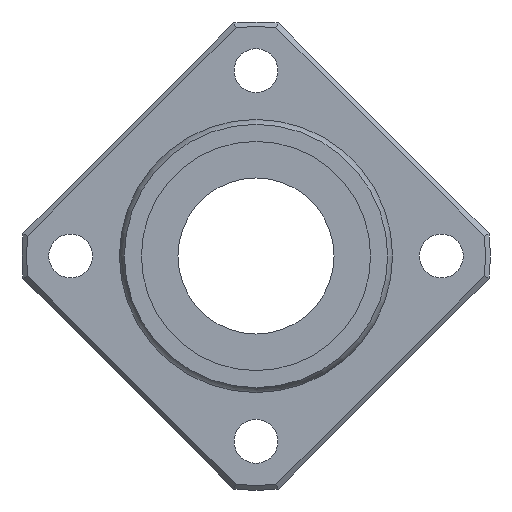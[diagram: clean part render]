
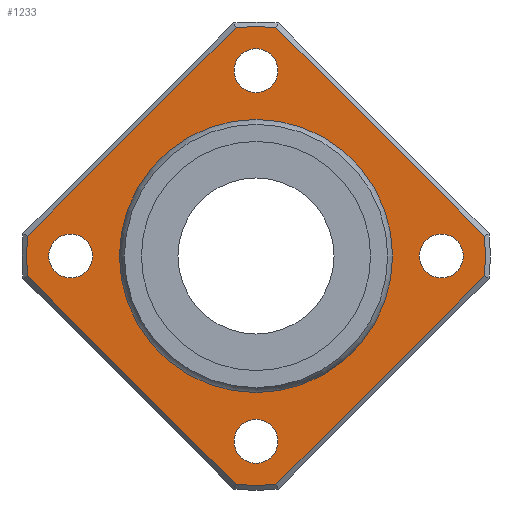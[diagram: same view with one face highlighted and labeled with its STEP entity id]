
A CAD part, left-side view. The second image highlights one B-rep face of the part: STEP entity #1233.
In plain terms, the highlighted planar face has unit normal (-1, 0, 0).
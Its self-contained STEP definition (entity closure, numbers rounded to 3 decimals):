
#809=CARTESIAN_POINT('',(-26.,23.411,2.045));
#810=VERTEX_POINT('',#809);
#818=CARTESIAN_POINT('',(-26.,2.045,23.411));
#819=VERTEX_POINT('',#818);
#820=CARTESIAN_POINT('',(-26.,23.411,2.045));
#821=DIRECTION('',(0.0,-0.707,0.707));
#822=VECTOR('',#821,30.216);
#823=LINE('',#820,#822);
#824=EDGE_CURVE('',#810,#819,#823,.T.);
#851=CARTESIAN_POINT('',(-26.,-2.045,23.411));
#852=VERTEX_POINT('',#851);
#853=CARTESIAN_POINT('',(-26.,0.0,0.0));
#854=DIRECTION('',(1.0,0.0,0.0));
#855=DIRECTION('',(0.0,0.0,1.0));
#856=AXIS2_PLACEMENT_3D('',#853,#854,#855);
#857=CIRCLE('',#856,23.5);
#858=EDGE_CURVE('',#819,#852,#857,.T.);
#884=CARTESIAN_POINT('',(-26.,-23.411,2.045));
#885=VERTEX_POINT('',#884);
#886=CARTESIAN_POINT('',(-26.,-2.045,23.411));
#887=DIRECTION('',(0.0,-0.707,-0.707));
#888=VECTOR('',#887,30.216);
#889=LINE('',#886,#888);
#890=EDGE_CURVE('',#852,#885,#889,.T.);
#917=CARTESIAN_POINT('',(-26.,-23.411,-2.045));
#918=VERTEX_POINT('',#917);
#919=CARTESIAN_POINT('',(-26.,0.0,0.0));
#920=DIRECTION('',(1.0,0.0,0.0));
#921=DIRECTION('',(0.0,0.0,1.0));
#922=AXIS2_PLACEMENT_3D('',#919,#920,#921);
#923=CIRCLE('',#922,23.5);
#924=EDGE_CURVE('',#885,#918,#923,.T.);
#950=CARTESIAN_POINT('',(-26.,-2.045,-23.411));
#951=VERTEX_POINT('',#950);
#952=CARTESIAN_POINT('',(-26.,-23.411,-2.045));
#953=DIRECTION('',(0.0,0.707,-0.707));
#954=VECTOR('',#953,30.216);
#955=LINE('',#952,#954);
#956=EDGE_CURVE('',#918,#951,#955,.T.);
#983=CARTESIAN_POINT('',(-26.,2.045,-23.411));
#984=VERTEX_POINT('',#983);
#985=CARTESIAN_POINT('',(-26.,0.0,0.0));
#986=DIRECTION('',(1.0,0.0,0.0));
#987=DIRECTION('',(0.0,0.0,-1.0));
#988=AXIS2_PLACEMENT_3D('',#985,#986,#987);
#989=CIRCLE('',#988,23.5);
#990=EDGE_CURVE('',#951,#984,#989,.T.);
#1016=CARTESIAN_POINT('',(-26.,23.411,-2.045));
#1017=VERTEX_POINT('',#1016);
#1018=CARTESIAN_POINT('',(-26.,2.045,-23.411));
#1019=DIRECTION('',(0.0,0.707,0.707));
#1020=VECTOR('',#1019,30.216);
#1021=LINE('',#1018,#1020);
#1022=EDGE_CURVE('',#984,#1017,#1021,.T.);
#1047=CARTESIAN_POINT('',(-26.,0.0,0.0));
#1048=DIRECTION('',(1.0,0.0,0.0));
#1049=DIRECTION('',(0.0,0.0,1.0));
#1050=AXIS2_PLACEMENT_3D('',#1047,#1048,#1049);
#1051=CIRCLE('',#1050,23.5);
#1052=EDGE_CURVE('',#1017,#810,#1051,.T.);
#1163=CARTESIAN_POINT('',(-26.,0.0,18.887));
#1164=DIRECTION('',(-1.0,0.0,0.0));
#1165=DIRECTION('',(0.0,0.0,1.0));
#1166=AXIS2_PLACEMENT_3D('',#1163,#1164,#1165);
#1167=PLANE('',#1166);
#1168=ORIENTED_EDGE('',*,*,#824,.F.);
#1169=ORIENTED_EDGE('',*,*,#1052,.F.);
#1170=ORIENTED_EDGE('',*,*,#1022,.F.);
#1171=ORIENTED_EDGE('',*,*,#990,.F.);
#1172=ORIENTED_EDGE('',*,*,#956,.F.);
#1173=ORIENTED_EDGE('',*,*,#924,.F.);
#1174=ORIENTED_EDGE('',*,*,#890,.F.);
#1175=ORIENTED_EDGE('',*,*,#858,.F.);
#1176=EDGE_LOOP('',(#1168,#1169,#1170,#1171,#1172,#1173,#1174,#1175));
#1177=FACE_OUTER_BOUND('',#1176,.T.);
#1178=CARTESIAN_POINT('',(-26.,0.0,13.773));
#1179=VERTEX_POINT('',#1178);
#1180=CARTESIAN_POINT('',(-26.,0.0,0.0));
#1181=DIRECTION('',(-1.0,0.0,0.0));
#1182=DIRECTION('',(0.0,0.0,1.0));
#1183=AXIS2_PLACEMENT_3D('',#1180,#1181,#1182);
#1184=CIRCLE('',#1183,13.773);
#1185=EDGE_CURVE('',#1179,#1179,#1184,.T.);
#1186=ORIENTED_EDGE('',*,*,#1185,.F.);
#1187=EDGE_LOOP('',(#1186));
#1188=FACE_BOUND('',#1187,.T.);
#1189=CARTESIAN_POINT('',(-26.,16.75,0.));
#1190=VERTEX_POINT('',#1189);
#1191=CARTESIAN_POINT('',(-26.,19.0,0.));
#1192=DIRECTION('',(1.0,0.0,0.0));
#1193=DIRECTION('',(0.0,1.0,0.0));
#1194=AXIS2_PLACEMENT_3D('',#1191,#1192,#1193);
#1195=CIRCLE('',#1194,2.25);
#1196=EDGE_CURVE('',#1190,#1190,#1195,.T.);
#1197=ORIENTED_EDGE('',*,*,#1196,.T.);
#1198=EDGE_LOOP('',(#1197));
#1199=FACE_BOUND('',#1198,.T.);
#1200=CARTESIAN_POINT('',(-26.,-21.25,0.));
#1201=VERTEX_POINT('',#1200);
#1202=CARTESIAN_POINT('',(-26.,-19.0,0.0));
#1203=DIRECTION('',(1.0,0.0,0.0));
#1204=DIRECTION('',(0.0,1.0,0.0));
#1205=AXIS2_PLACEMENT_3D('',#1202,#1203,#1204);
#1206=CIRCLE('',#1205,2.25);
#1207=EDGE_CURVE('',#1201,#1201,#1206,.T.);
#1208=ORIENTED_EDGE('',*,*,#1207,.T.);
#1209=EDGE_LOOP('',(#1208));
#1210=FACE_BOUND('',#1209,.T.);
#1211=CARTESIAN_POINT('',(-26.,-2.25,19.0));
#1212=VERTEX_POINT('',#1211);
#1213=CARTESIAN_POINT('',(-26.,0.,19.0));
#1214=DIRECTION('',(1.0,0.0,0.0));
#1215=DIRECTION('',(0.0,1.0,0.0));
#1216=AXIS2_PLACEMENT_3D('',#1213,#1214,#1215);
#1217=CIRCLE('',#1216,2.25);
#1218=EDGE_CURVE('',#1212,#1212,#1217,.T.);
#1219=ORIENTED_EDGE('',*,*,#1218,.T.);
#1220=EDGE_LOOP('',(#1219));
#1221=FACE_BOUND('',#1220,.T.);
#1222=CARTESIAN_POINT('',(-26.,-2.25,-19.0));
#1223=VERTEX_POINT('',#1222);
#1224=CARTESIAN_POINT('',(-26.,0.,-19.0));
#1225=DIRECTION('',(1.0,0.0,0.0));
#1226=DIRECTION('',(0.0,1.0,0.0));
#1227=AXIS2_PLACEMENT_3D('',#1224,#1225,#1226);
#1228=CIRCLE('',#1227,2.25);
#1229=EDGE_CURVE('',#1223,#1223,#1228,.T.);
#1230=ORIENTED_EDGE('',*,*,#1229,.T.);
#1231=EDGE_LOOP('',(#1230));
#1232=FACE_BOUND('',#1231,.T.);
#1233=ADVANCED_FACE('',(#1177,#1188,#1199,#1210,#1221,#1232),#1167,.T.);
